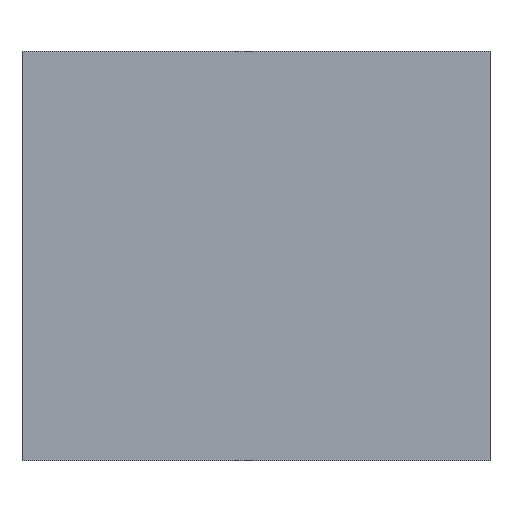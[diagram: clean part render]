
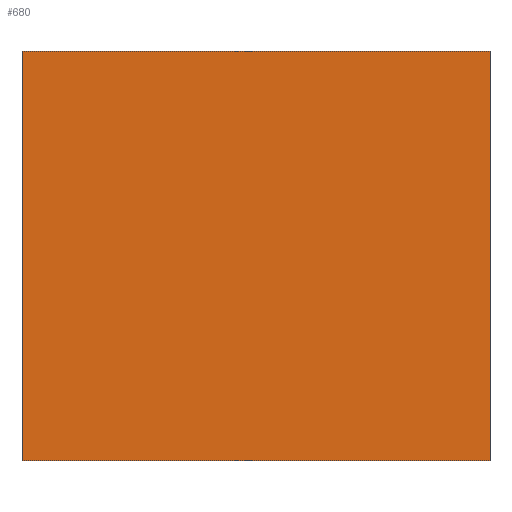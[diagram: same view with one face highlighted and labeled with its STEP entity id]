
A CAD part, top view. The second image highlights one B-rep face of the part: STEP entity #680.
In plain terms, the highlighted planar face has unit normal (0, 0, 1).
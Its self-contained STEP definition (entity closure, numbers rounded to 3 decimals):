
#88=FACE_OUTER_BOUND('',#136,.T.);
#136=EDGE_LOOP('',(#607,#608,#609,#610));
#186=LINE('',#1236,#246);
#190=LINE('',#1244,#250);
#193=LINE('',#1250,#253);
#196=LINE('',#1255,#256);
#246=VECTOR('',#932,10.);
#250=VECTOR('',#938,10.);
#253=VECTOR('',#943,10.);
#256=VECTOR('',#948,10.);
#328=VERTEX_POINT('',#1234);
#329=VERTEX_POINT('',#1235);
#332=VERTEX_POINT('',#1243);
#334=VERTEX_POINT('',#1249);
#413=EDGE_CURVE('',#328,#329,#186,.T.);
#417=EDGE_CURVE('',#332,#328,#190,.T.);
#420=EDGE_CURVE('',#334,#332,#193,.T.);
#423=EDGE_CURVE('',#329,#334,#196,.T.);
#607=ORIENTED_EDGE('',*,*,#423,.F.);
#608=ORIENTED_EDGE('',*,*,#413,.F.);
#609=ORIENTED_EDGE('',*,*,#417,.F.);
#610=ORIENTED_EDGE('',*,*,#420,.F.);
#637=PLANE('',#752);
#680=ADVANCED_FACE('',(#88),#637,.T.);
#752=AXIS2_PLACEMENT_3D('',#1257,#950,#951);
#932=DIRECTION('',(0.,-1.,0.));
#938=DIRECTION('',(1.,0.,0.));
#943=DIRECTION('',(0.,1.,0.));
#948=DIRECTION('',(-1.,0.,0.));
#950=DIRECTION('center_axis',(0.,0.,1.));
#951=DIRECTION('ref_axis',(1.,0.,0.));
#1234=CARTESIAN_POINT('',(30.,25.,18.));
#1235=CARTESIAN_POINT('',(30.,-10.002,18.));
#1236=CARTESIAN_POINT('',(30.,25.,18.));
#1243=CARTESIAN_POINT('',(-10.,25.,18.));
#1244=CARTESIAN_POINT('',(-10.,25.,18.));
#1249=CARTESIAN_POINT('',(-10.,-10.002,18.));
#1250=CARTESIAN_POINT('',(-10.,-10.002,18.));
#1255=CARTESIAN_POINT('',(30.,-10.002,18.));
#1257=CARTESIAN_POINT('Origin',(10.,7.499,18.));
